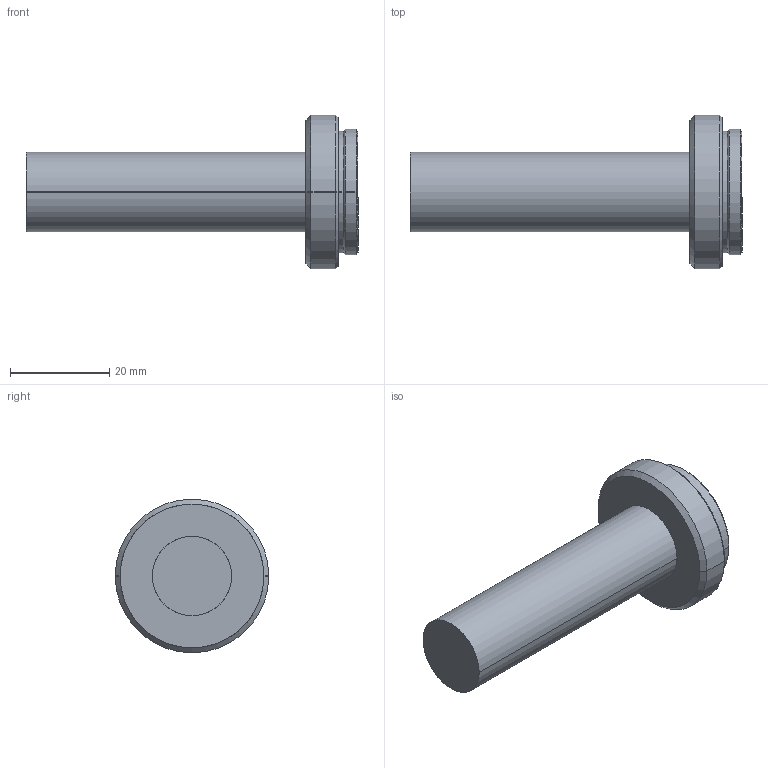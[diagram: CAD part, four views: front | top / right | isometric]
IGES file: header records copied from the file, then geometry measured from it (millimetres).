
Start section: SolidWorks IGES file using analytic representation for surfaces
Bounding box: 67 x 31 x 31 mm (x, y, z)
Surface area: 5237.2 mm2 (no closed solid volume)
Topology: 0 solids, 0 shells, 20 faces, 320 edges, 320 vertices
Faces by surface type: revolution 16, bspline 4
